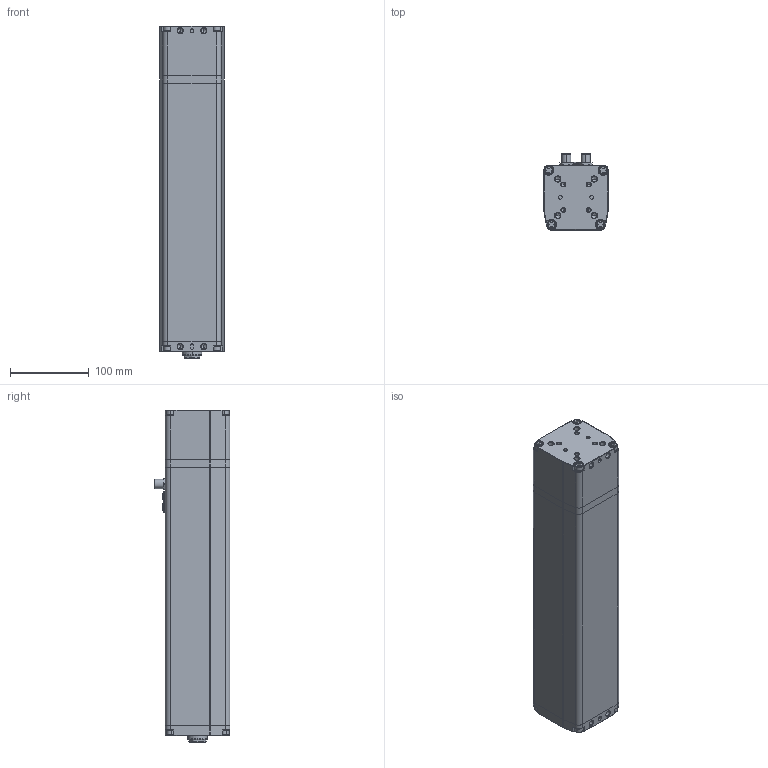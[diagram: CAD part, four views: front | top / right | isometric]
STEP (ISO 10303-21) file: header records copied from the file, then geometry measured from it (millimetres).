
FILE_DESCRIPTION (( 'STEP AP203' ), '1' );
FILE_NAME ('CTC-080-K__-____-_.step', '2023-09-29T09:56:04', ( '' ), ( '' ), 'SwSTEP 2.0', 'SolidWorks 2020', '' );
FILE_SCHEMA (( 'CONFIG_CONTROL_DESIGN' ));
Length unit declared in the file: millimetre
Products named in the file (4): CTC-080_Aufsatz-I_M10; CTC-080_housing_Hub_0250; CTC-080-K__-____-_; CTC-080_Schubrohr_Hub 0250
Assembly tree (3 placements, depth 2):
  CTC-080-K__-____-_
    CTC-080_housing_Hub_0250
    CTC-080_Schubrohr_Hub 0250
    CTC-080_Aufsatz-I_M10
Bounding box: 82 x 96.3 x 422 mm (x, y, z)
Volume: 2464149 mm3; surface area: 310154 mm2
Topology: 30 solids, 30 shells, 794 faces, 1773 edges, 1092 vertices
Faces by surface type: cylinder 305, plane 297, cone 116, torus 68, sphere 8
Entity records: 22301 total; most frequent: DIRECTION 4133, CARTESIAN_POINT 3791, ORIENTED_EDGE 3478, EDGE_CURVE 1739, AXIS2_PLACEMENT_3D 1630, VERTEX_POINT 1092, EDGE_LOOP 889, LINE 873
